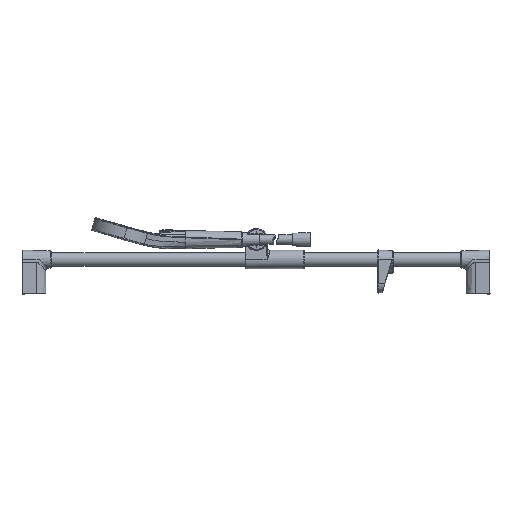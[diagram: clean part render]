
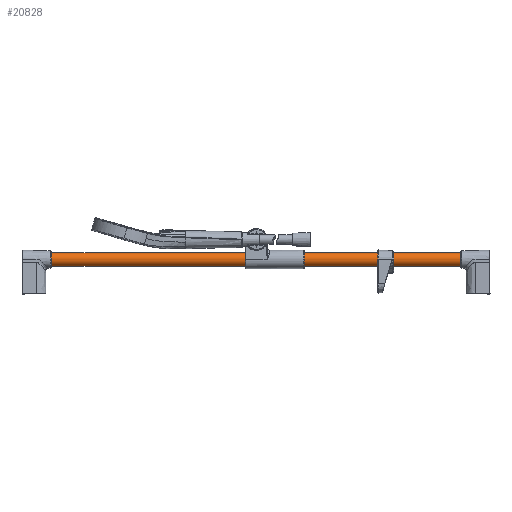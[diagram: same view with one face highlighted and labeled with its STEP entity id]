
A CAD part, left-side view. The second image highlights one B-rep face of the part: STEP entity #20828.
In plain terms, the highlighted cylindrical face has radius 10.95 mm (diameter 21.9 mm), a partial arc.
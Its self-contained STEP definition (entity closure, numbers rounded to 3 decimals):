
#429 = VERTEX_POINT ( 'NONE', #25116 ) ;
#672 = EDGE_CURVE ( 'NONE', #429, #6091, #18120, .T. ) ;
#723 = CARTESIAN_POINT ( 'NONE',  ( 0., -416.3, -10.95 ) ) ;
#3195 = AXIS2_PLACEMENT_3D ( 'NONE', #26203, #15827, #5726 ) ;
#3210 = ORIENTED_EDGE ( 'NONE', *, *, #672, .F. ) ;
#3660 = CYLINDRICAL_SURFACE ( 'NONE', #13465, 10.95 ) ;
#4287 = EDGE_CURVE ( 'NONE', #6091, #17240, #5441, .T. ) ;
#5441 = CIRCLE ( 'NONE', #10625, 10.95 ) ;
#5726 = DIRECTION ( 'NONE',  ( 0., 0., -1. ) ) ;
#6091 = VERTEX_POINT ( 'NONE', #27331 ) ;
#9293 = CARTESIAN_POINT ( 'NONE',  ( 0., 343.7, -10.95 ) ) ;
#10031 = ORIENTED_EDGE ( 'NONE', *, *, #13533, .T. ) ;
#10625 = AXIS2_PLACEMENT_3D ( 'NONE', #21226, #23515, #10852 ) ;
#10852 = DIRECTION ( 'NONE',  ( 0., 0., -1. ) ) ;
#13465 = AXIS2_PLACEMENT_3D ( 'NONE', #26769, #31632, #16733 ) ;
#13533 = EDGE_CURVE ( 'NONE', #429, #15395, #28313, .T. ) ;
#14035 = EDGE_LOOP ( 'NONE', ( #10031, #18183, #27493, #3210 ) ) ;
#14716 = VECTOR ( 'NONE', #31997, 1000. ) ;
#15395 = VERTEX_POINT ( 'NONE', #25172 ) ;
#15827 = DIRECTION ( 'NONE',  ( 0., -1., 0. ) ) ;
#16733 = DIRECTION ( 'NONE',  ( 0., 0., 1. ) ) ;
#17011 = DIRECTION ( 'NONE',  ( 0., -1., 0. ) ) ;
#17240 = VERTEX_POINT ( 'NONE', #723 ) ;
#18120 = LINE ( 'NONE', #19457, #22869 ) ;
#18183 = ORIENTED_EDGE ( 'NONE', *, *, #19264, .T. ) ;
#19264 = EDGE_CURVE ( 'NONE', #15395, #17240, #20654, .T. ) ;
#19457 = CARTESIAN_POINT ( 'NONE',  ( 0., 343.7, 10.95 ) ) ;
#20654 = LINE ( 'NONE', #9293, #14716 ) ;
#20828 = ADVANCED_FACE ( 'NONE', ( #23763 ), #3660, .T. ) ;
#21226 = CARTESIAN_POINT ( 'NONE',  ( 0., -416.3, 0. ) ) ;
#22869 = VECTOR ( 'NONE', #17011, 1000. ) ;
#23515 = DIRECTION ( 'NONE',  ( 0., -1., 0. ) ) ;
#23763 = FACE_OUTER_BOUND ( 'NONE', #14035, .T. ) ;
#25116 = CARTESIAN_POINT ( 'NONE',  ( 0., 343.7, 10.95 ) ) ;
#25172 = CARTESIAN_POINT ( 'NONE',  ( 0., 343.7, -10.95 ) ) ;
#26203 = CARTESIAN_POINT ( 'NONE',  ( 0., 343.7, 0. ) ) ;
#26769 = CARTESIAN_POINT ( 'NONE',  ( 0., 343.7, 0. ) ) ;
#27331 = CARTESIAN_POINT ( 'NONE',  ( 0., -416.3, 10.95 ) ) ;
#27493 = ORIENTED_EDGE ( 'NONE', *, *, #4287, .F. ) ;
#28313 = CIRCLE ( 'NONE', #3195, 10.95 ) ;
#31632 = DIRECTION ( 'NONE',  ( 0., -1., 0. ) ) ;
#31997 = DIRECTION ( 'NONE',  ( 0., -1., 0. ) ) ;
